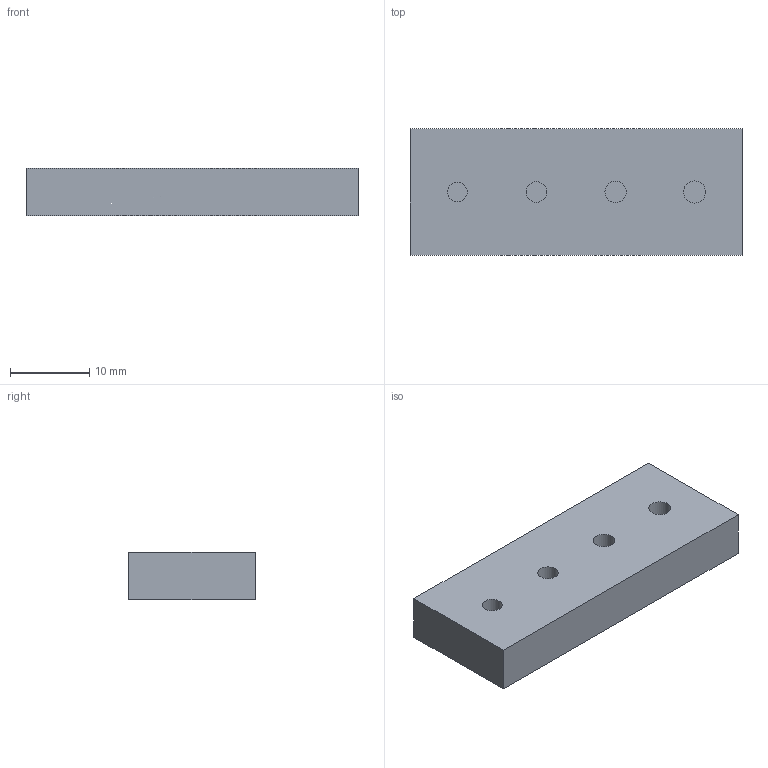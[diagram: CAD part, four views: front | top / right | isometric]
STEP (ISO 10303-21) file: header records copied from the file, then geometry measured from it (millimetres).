
FILE_DESCRIPTION(('FreeCAD Model'),'2;1');
FILE_NAME('Open CASCADE Shape Model','2026-11-16T14:52:49',('FreeCAD'),( 'FreeCAD'),'Open CASCADE STEP processor 7.9','FreeCAD','Unknown');
FILE_SCHEMA(('AUTOMOTIVE_DESIGN { 1 0 10303 214 1 1 1 1 }'));
Length unit declared in the file: millimetre
Products named in the file (1): Open CASCADE STEP translator 7.9 5
Bounding box: 42 x 16 x 6 mm (x, y, z)
Volume: 3921.5 mm3; surface area: 2206.5 mm2
Topology: 1 solids, 1 shells, 14 faces, 24 edges, 16 vertices
Faces by surface type: plane 10, cylinder 4
Full cylindrical faces by diameter (mm): 2.5 x1, 2.6 x1, 2.7 x1, 2.8 x1
Entity records: 346 total; most frequent: DIRECTION 62, CARTESIAN_POINT 55, ORIENTED_EDGE 48, EDGE_CURVE 24, AXIS2_PLACEMENT_3D 23, FACE_BOUND 18, EDGE_LOOP 18, VERTEX_POINT 16
